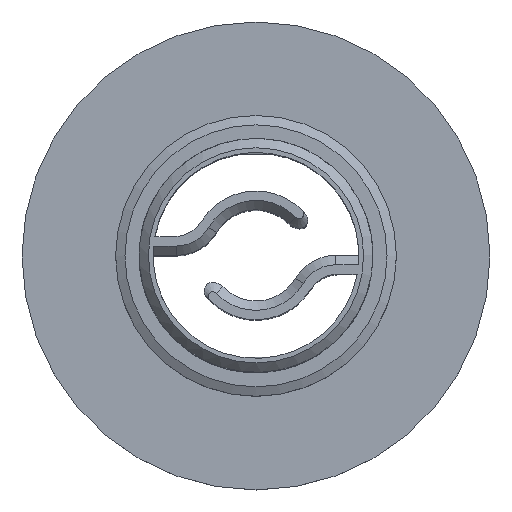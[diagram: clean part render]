
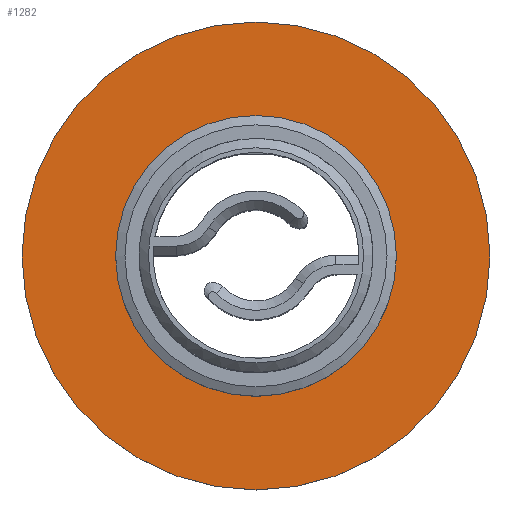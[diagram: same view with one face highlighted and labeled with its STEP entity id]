
A CAD part, top view. The second image highlights one B-rep face of the part: STEP entity #1282.
In plain terms, the highlighted planar face has unit normal (0, 0, 1).
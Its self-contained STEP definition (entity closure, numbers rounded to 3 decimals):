
#376=ORIENTED_EDGE('',*,*,#753,.T.);
#377=ORIENTED_EDGE('',*,*,#755,.F.);
#753=EDGE_CURVE('',#939,#939,#1023,.F.);
#755=EDGE_CURVE('',#941,#941,#1025,.T.);
#939=VERTEX_POINT('',#2119);
#941=VERTEX_POINT('',#2124);
#1023=CIRCLE('',#1391,15.);
#1025=CIRCLE('',#1394,25.);
#1085=EDGE_LOOP('',(#376));
#1086=EDGE_LOOP('',(#377));
#1175=FACE_BOUND('',#1085,.T.);
#1176=FACE_BOUND('',#1086,.T.);
#1253=PLANE('',#1397);
#1282=ADVANCED_FACE('',(#1175,#1176),#1253,.F.);
#1391=AXIS2_PLACEMENT_3D('',#2118,#1603,#1604);
#1394=AXIS2_PLACEMENT_3D('',#2123,#1609,#1610);
#1397=AXIS2_PLACEMENT_3D('',#2128,#1615,#1616);
#1603=DIRECTION('',(0.,0.,1.));
#1604=DIRECTION('',(1.,0.,0.));
#1609=DIRECTION('',(0.,0.,-1.));
#1610=DIRECTION('',(-1.,0.,0.));
#1615=DIRECTION('',(0.,0.,-1.));
#1616=DIRECTION('',(1.,0.,0.));
#2118=CARTESIAN_POINT('',(56.125,230.,87.25));
#2119=CARTESIAN_POINT('',(71.125,230.,87.25));
#2123=CARTESIAN_POINT('',(56.125,230.,87.25));
#2124=CARTESIAN_POINT('',(31.125,230.,87.25));
#2128=CARTESIAN_POINT('',(56.125,230.,87.25));
